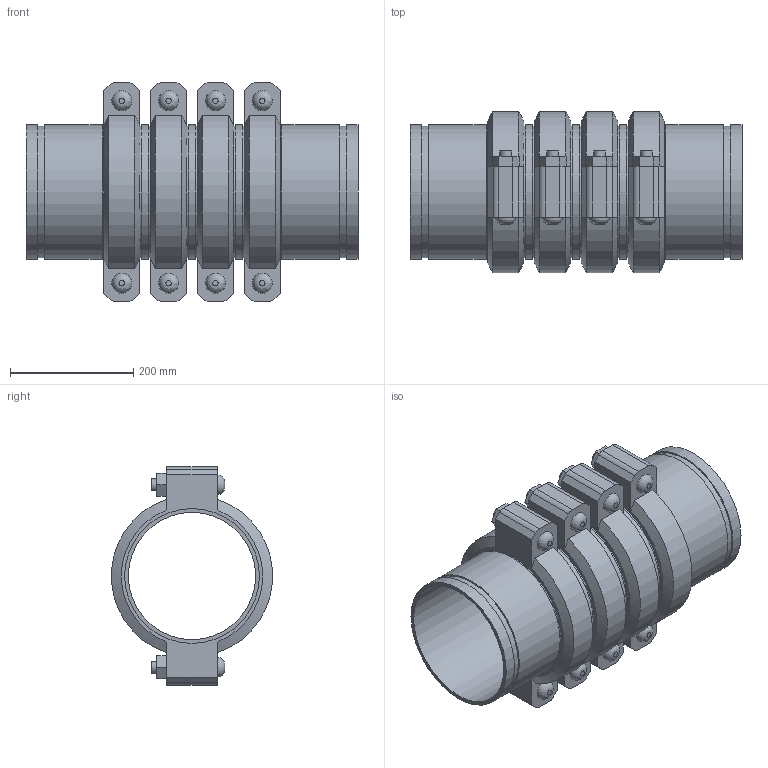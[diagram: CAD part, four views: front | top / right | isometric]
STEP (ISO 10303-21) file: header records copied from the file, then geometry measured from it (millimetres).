
FILE_DESCRIPTION(/* description */ ('VIC SS EXPANSION JOINT 4 COUPLINGS EXPANDED STYLE 155P (OGS) (POTABLE WATER) ','CAx-IF Rec.Pracs.---Representation and Presentation of Product Manufacturing Information (PMI)---4.0---2014-10-13'),/* implementation_level */ '2;1');
FILE_NAME(/* name */ 'C:\Users\kkamble\AppData\Roaming\Autodesk\ApplicationPlugins\Victaulic.Temp\A557\Victaulic_SS_Expansion Joint_Expanded_4 Couplings_Style 155P (OGS)-Potable Water_4 Coup_Expd_8 (200).stp',/* time_stamp */ '2021-07-16T16:51:38+05:00',/* author */ ('kkamble'),/* organization */ ('Victaulic'),/* preprocessor_version */ 'ST-DEVELOPER v17.2',/* originating_system */ 'Autodesk Inventor 2019',/* authorisation */ '');
FILE_SCHEMA (('AP242_MANAGED_MODEL_BASED_3D_ENGINEERING_MIM_LF { 1 0 10303 442 1 1 4 }'));
Length unit declared in the file: inch
Products named in the file (4): 155P-08.0; Nipple-08.0; Nipple-08.0_1; 075-08.0
Assembly tree (9 placements, depth 2):
  155P-08.0
    Nipple-08.0  x2
    Nipple-08.0_1  x3
    075-08.0  x4
Bounding box: 539.75 x 261.72 x 354.84 mm (x, y, z)
Volume: 7508752.4 mm3; surface area: 1460958.5 mm2
Topology: 9 solids, 17 shells, 288 faces, 682 edges, 480 vertices
Faces by surface type: plane 174, cylinder 90, cone 16, bspline 8
Full cylindrical faces by diameter (mm): 19.05 x16, 21.209 x8, 206.985 x5, 212.725 x4, 214.401 x10, 219.075 x23
Entity records: 2776 total; most frequent: CARTESIAN_POINT 493, DIRECTION 461, ORIENTED_EDGE 386, EDGE_CURVE 193, AXIS2_PLACEMENT_3D 184, VERTEX_POINT 138, EDGE_LOOP 107, LINE 93
